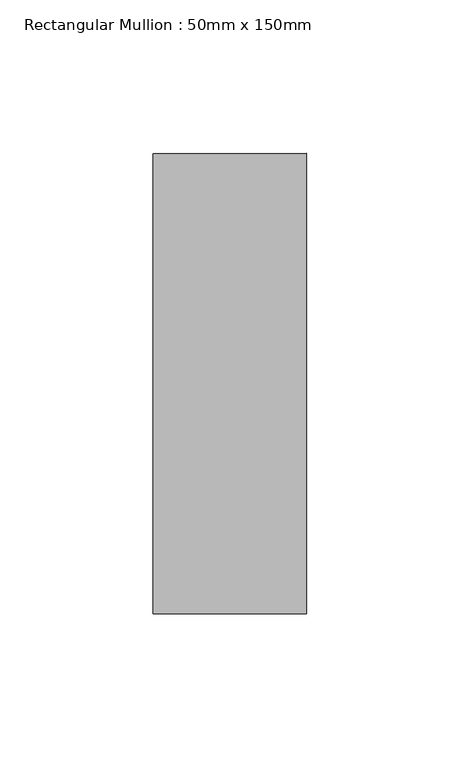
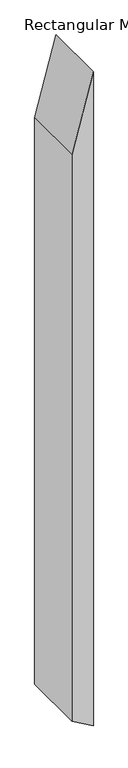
"""IFC4 building model written with IfcOpenShell, lengths in millimetres: member geometry, Rectangular Mullion : 50mm x 150mm."""

from ifc_helpers import new_model, si_unit, frame, origin, place, context, project, spatial, polyline, outline, extrude, source, transform, mapped, element, save


def rectangular_mullion_50mm_x_150mm_e9447dd4(model_context):
    return source(origin(), model_context, "Body", "SweptSolid", [
        extrude(outline(polyline([(50.0, 0.0), (-136.6025404, -50.0), (-1533.5600774, -50.0), (-1562.4275908, 0.0), (50.0, 0.0)])), frame((0.0, -75.0, 0.0), z_axis=(0.0, 1.0, 0.0), x_axis=(0.0, 0.0, 1.0)), (0.0, 0.0, 1.0), 150.0),
    ])


if __name__ == "__main__":
    model = new_model("IFC4")
    model_context = context("Model", 3, world=origin())
    ifc_project = project(units=[si_unit("LENGTHUNIT", "METRE", prefix="MILLI")], contexts=[model_context])
    site = spatial("IfcSite", under=ifc_project)
    building = spatial("IfcBuilding", under=site)
    placement = place(None, origin())
    rectangular_mullion_50mm_x_150mm_shape = rectangular_mullion_50mm_x_150mm_e9447dd4(model_context)
    element("IfcMember", 1, ObjectType="Rectangular Mullion : 50mm x 150mm", at=placement, inside=building, context=model_context, shape_type="MappedRepresentation", body=[
        mapped(rectangular_mullion_50mm_x_150mm_shape, transform((0.0, 0.0, 0.0), x_axis=(1.0, 0.0, 0.0), y_axis=(0.0, 1.0, 0.0), z_axis=(0.0, 0.0, 1.0))),
    ])
    save(model, "model.ifc")
